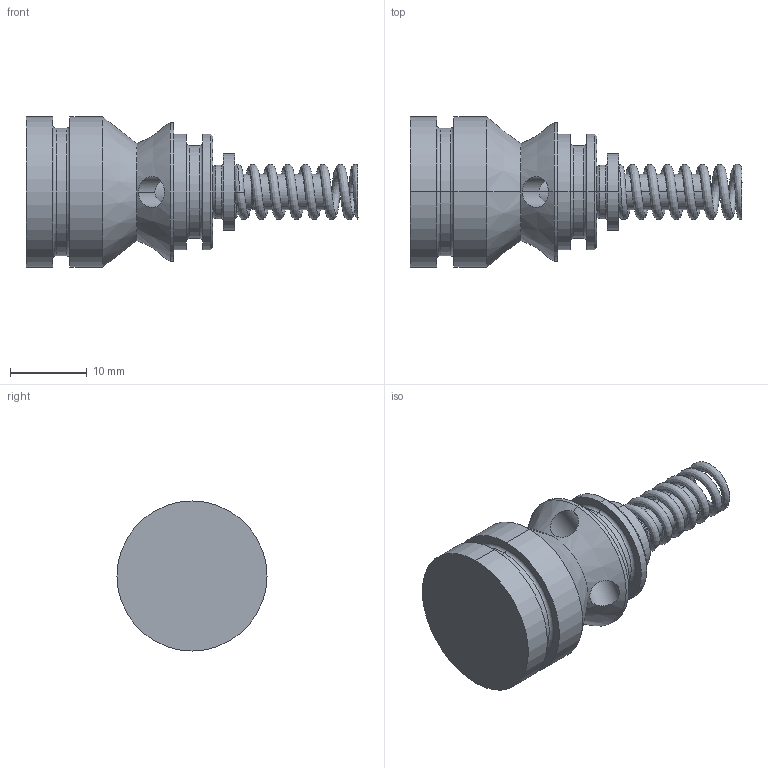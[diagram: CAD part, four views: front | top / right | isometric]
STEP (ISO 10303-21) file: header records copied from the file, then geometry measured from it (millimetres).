
FILE_DESCRIPTION (( 'STEP AP214' ), '1' );
FILE_NAME ('2206_Medium.STEP', '2021-09-01T08:27:57', ( '' ), ( '' ), 'SwSTEP 2.0', 'SolidWorks 2020', '' );
FILE_SCHEMA (( 'AUTOMOTIVE_DESIGN' ));
Length unit declared in the file: millimetre
Products named in the file (1): 2206_Medium
Bounding box: 43.15 x 19.5 x 19.5 mm (x, y, z)
Volume: 5642.8 mm3; surface area: 3424.3 mm2
Topology: 3 solids, 3 shells, 92 faces, 186 edges, 111 vertices
Faces by surface type: cylinder 43, plane 17, cone 14, torus 12, bspline 6
Entity records: 8126 total; most frequent: CARTESIAN_POINT 5148, DIRECTION 423, ORIENTED_EDGE 372, EDGE_CURVE 186, AXIS2_PLACEMENT_3D 183, VERTEX_POINT 111, EDGE_LOOP 103, UNCERTAINTY_MEASURE_WITH_UNIT 97
